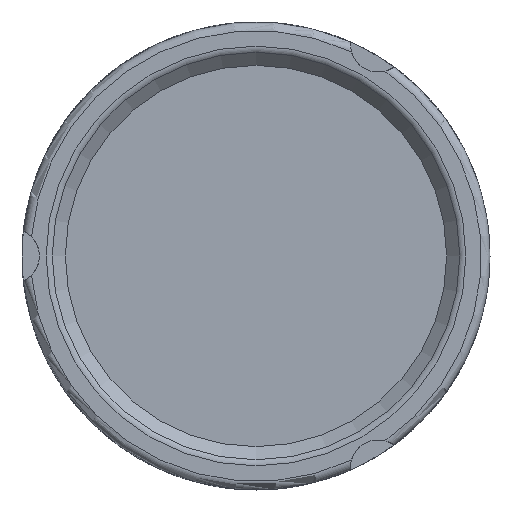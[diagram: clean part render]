
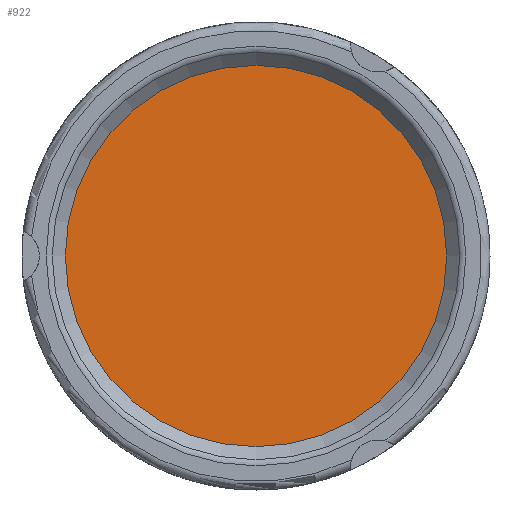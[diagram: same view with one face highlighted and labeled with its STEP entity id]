
A CAD part, left-side view. The second image highlights one B-rep face of the part: STEP entity #922.
In plain terms, the highlighted planar face has unit normal (-1, 0, 0).
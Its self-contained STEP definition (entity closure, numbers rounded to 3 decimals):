
#253=FACE_OUTER_BOUND('',#330,.T.);
#330=EDGE_LOOP('',(#851));
#387=CIRCLE('',#1062,12.2);
#471=VERTEX_POINT('',#2180);
#598=EDGE_CURVE('',#471,#471,#387,.T.);
#851=ORIENTED_EDGE('',*,*,#598,.F.);
#861=PLANE('',#1063);
#922=ADVANCED_FACE('',(#253),#861,.F.);
#1062=AXIS2_PLACEMENT_3D('',#2182,#1334,#1335);
#1063=AXIS2_PLACEMENT_3D('',#2183,#1336,#1337);
#1334=DIRECTION('center_axis',(1.,0.,0.));
#1335=DIRECTION('ref_axis',(0.,0.,-1.));
#1336=DIRECTION('center_axis',(1.,0.,0.));
#1337=DIRECTION('ref_axis',(0.,0.,-1.));
#2180=CARTESIAN_POINT('',(-19.2,0.,12.2));
#2182=CARTESIAN_POINT('Origin',(-19.2,0.,0.));
#2183=CARTESIAN_POINT('Origin',(-19.2,0.,0.));
